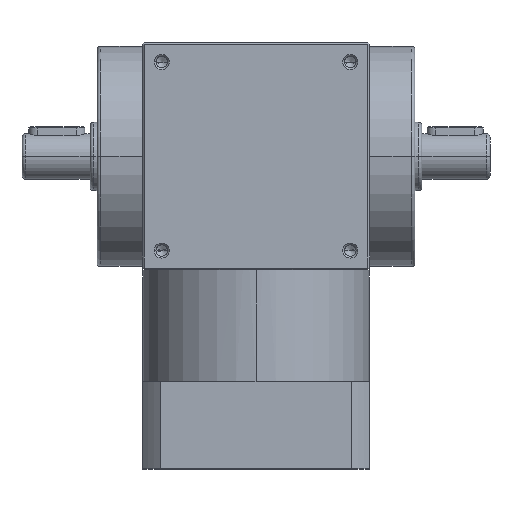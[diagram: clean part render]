
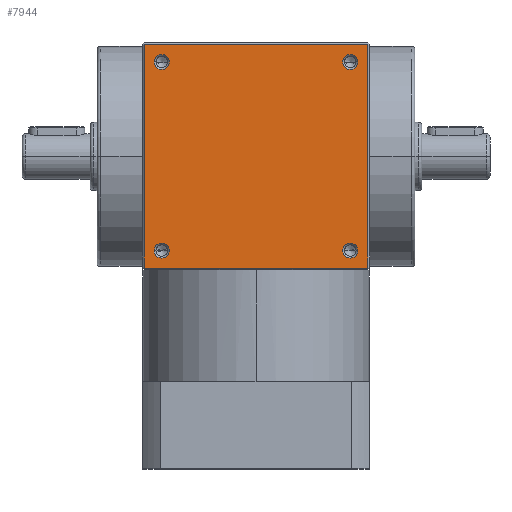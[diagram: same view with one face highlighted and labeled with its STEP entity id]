
A CAD part, top view. The second image highlights one B-rep face of the part: STEP entity #7944.
In plain terms, the highlighted planar face has unit normal (0, 0, 1).
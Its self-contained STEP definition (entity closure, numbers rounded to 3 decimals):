
#6 = ORIENTED_EDGE ( 'NONE', *, *, #1951, .T. ) ;
#156 = CIRCLE ( 'NONE', #3782, 2.15 ) ;
#178 = DIRECTION ( 'NONE',  ( 0., 0., -1. ) ) ;
#218 = CARTESIAN_POINT ( 'NONE',  ( -32., 0., 32.5 ) ) ;
#415 = EDGE_CURVE ( 'NONE', #3198, #7879, #9519, .T. ) ;
#473 = CARTESIAN_POINT ( 'NONE',  ( 0., 0., 32.5 ) ) ;
#605 = CIRCLE ( 'NONE', #6593, 2.15 ) ;
#649 = DIRECTION ( 'NONE',  ( 0., 0., -1. ) ) ;
#782 = VERTEX_POINT ( 'NONE', #1695 ) ;
#820 = VECTOR ( 'NONE', #4402, 1000. ) ;
#1169 = EDGE_CURVE ( 'NONE', #7948, #9587, #5597, .T. ) ;
#1332 = DIRECTION ( 'NONE',  ( -1., 0., 0. ) ) ;
#1337 = CIRCLE ( 'NONE', #7521, 2.15 ) ;
#1436 = EDGE_CURVE ( 'NONE', #8913, #3198, #6053, .T. ) ;
#1455 = EDGE_CURVE ( 'NONE', #8459, #5380, #156, .T. ) ;
#1591 = EDGE_LOOP ( 'NONE', ( #4033, #2217, #4034, #8057 ) ) ;
#1634 = DIRECTION ( 'NONE',  ( 0., 0., -1. ) ) ;
#1662 = DIRECTION ( 'NONE',  ( -1., 0., 0. ) ) ;
#1674 = CARTESIAN_POINT ( 'NONE',  ( -29.15, 27., 32.5 ) ) ;
#1695 = CARTESIAN_POINT ( 'NONE',  ( 29.15, -27., 32.5 ) ) ;
#1951 = EDGE_CURVE ( 'NONE', #3301, #782, #9309, .T. ) ;
#2004 = AXIS2_PLACEMENT_3D ( 'NONE', #7458, #9091, #3764 ) ;
#2015 = DIRECTION ( 'NONE',  ( -1., 0., 0. ) ) ;
#2032 = CIRCLE ( 'NONE', #2272, 2.15 ) ;
#2102 = CIRCLE ( 'NONE', #2004, 2.15 ) ;
#2139 = ORIENTED_EDGE ( 'NONE', *, *, #5505, .T. ) ;
#2217 = ORIENTED_EDGE ( 'NONE', *, *, #415, .T. ) ;
#2247 = CARTESIAN_POINT ( 'NONE',  ( 29.15, 27., 32.5 ) ) ;
#2268 = DIRECTION ( 'NONE',  ( 0., 0., -1. ) ) ;
#2272 = AXIS2_PLACEMENT_3D ( 'NONE', #7439, #2268, #2998 ) ;
#2342 = CARTESIAN_POINT ( 'NONE',  ( 0., 32., 32.5 ) ) ;
#2728 = EDGE_CURVE ( 'NONE', #9597, #8913, #2993, .T. ) ;
#2730 = DIRECTION ( 'NONE',  ( -1., 0., 0. ) ) ;
#2776 = ORIENTED_EDGE ( 'NONE', *, *, #1455, .T. ) ;
#2993 = LINE ( 'NONE', #2342, #4388 ) ;
#2998 = DIRECTION ( 'NONE',  ( -1., 0., 0. ) ) ;
#3003 = CARTESIAN_POINT ( 'NONE',  ( 0., -32., 32.5 ) ) ;
#3093 = ORIENTED_EDGE ( 'NONE', *, *, #3763, .T. ) ;
#3163 = EDGE_LOOP ( 'NONE', ( #6733, #8200 ) ) ;
#3198 = VERTEX_POINT ( 'NONE', #4485 ) ;
#3223 = EDGE_LOOP ( 'NONE', ( #2776, #7965 ) ) ;
#3301 = VERTEX_POINT ( 'NONE', #4682 ) ;
#3349 = CARTESIAN_POINT ( 'NONE',  ( -24.85, 27., 32.5 ) ) ;
#3361 = CARTESIAN_POINT ( 'NONE',  ( -29.15, -27., 32.5 ) ) ;
#3485 = CARTESIAN_POINT ( 'NONE',  ( -27., -27., 32.5 ) ) ;
#3562 = LINE ( 'NONE', #8984, #8522 ) ;
#3763 = EDGE_CURVE ( 'NONE', #782, #3301, #3909, .T. ) ;
#3764 = DIRECTION ( 'NONE',  ( -1., 0., 0. ) ) ;
#3782 = AXIS2_PLACEMENT_3D ( 'NONE', #8640, #6447, #2015 ) ;
#3909 = CIRCLE ( 'NONE', #7796, 2.15 ) ;
#4033 = ORIENTED_EDGE ( 'NONE', *, *, #1436, .T. ) ;
#4034 = ORIENTED_EDGE ( 'NONE', *, *, #8120, .T. ) ;
#4118 = EDGE_LOOP ( 'NONE', ( #7138, #2139 ) ) ;
#4173 = PLANE ( 'NONE',  #4916 ) ;
#4202 = CARTESIAN_POINT ( 'NONE',  ( -27., 27., 32.5 ) ) ;
#4300 = EDGE_CURVE ( 'NONE', #4674, #9190, #2032, .T. ) ;
#4388 = VECTOR ( 'NONE', #5396, 1000. ) ;
#4402 = DIRECTION ( 'NONE',  ( 1., 0., 0. ) ) ;
#4485 = CARTESIAN_POINT ( 'NONE',  ( -32., -32., 32.5 ) ) ;
#4488 = FACE_BOUND ( 'NONE', #4118, .T. ) ;
#4674 = VERTEX_POINT ( 'NONE', #3349 ) ;
#4682 = CARTESIAN_POINT ( 'NONE',  ( 24.85, -27., 32.5 ) ) ;
#4780 = DIRECTION ( 'NONE',  ( 0., 0., -1. ) ) ;
#4916 = AXIS2_PLACEMENT_3D ( 'NONE', #473, #7939, #1332 ) ;
#4944 = FACE_BOUND ( 'NONE', #3223, .T. ) ;
#5218 = CARTESIAN_POINT ( 'NONE',  ( 32., 32., 32.5 ) ) ;
#5229 = DIRECTION ( 'NONE',  ( 0., 1., 0. ) ) ;
#5380 = VERTEX_POINT ( 'NONE', #3361 ) ;
#5396 = DIRECTION ( 'NONE',  ( -1., 0., 0. ) ) ;
#5505 = EDGE_CURVE ( 'NONE', #9190, #4674, #1337, .T. ) ;
#5597 = CIRCLE ( 'NONE', #7869, 2.15 ) ;
#5710 = VECTOR ( 'NONE', #8279, 1000. ) ;
#5839 = DIRECTION ( 'NONE',  ( -1., 0., 0. ) ) ;
#5885 = FACE_BOUND ( 'NONE', #3163, .T. ) ;
#6053 = LINE ( 'NONE', #218, #5710 ) ;
#6288 = DIRECTION ( 'NONE',  ( -1., 0., 0. ) ) ;
#6447 = DIRECTION ( 'NONE',  ( 0., 0., -1. ) ) ;
#6593 = AXIS2_PLACEMENT_3D ( 'NONE', #3485, #1634, #8316 ) ;
#6733 = ORIENTED_EDGE ( 'NONE', *, *, #6737, .T. ) ;
#6737 = EDGE_CURVE ( 'NONE', #9587, #7948, #2102, .T. ) ;
#7131 = EDGE_CURVE ( 'NONE', #5380, #8459, #605, .T. ) ;
#7138 = ORIENTED_EDGE ( 'NONE', *, *, #4300, .T. ) ;
#7184 = DIRECTION ( 'NONE',  ( 0., 0., -1. ) ) ;
#7262 = CARTESIAN_POINT ( 'NONE',  ( 27., 27., 32.5 ) ) ;
#7439 = CARTESIAN_POINT ( 'NONE',  ( -27., 27., 32.5 ) ) ;
#7458 = CARTESIAN_POINT ( 'NONE',  ( 27., 27., 32.5 ) ) ;
#7521 = AXIS2_PLACEMENT_3D ( 'NONE', #4202, #7184, #2730 ) ;
#7723 = CARTESIAN_POINT ( 'NONE',  ( 32., -32., 32.5 ) ) ;
#7796 = AXIS2_PLACEMENT_3D ( 'NONE', #8446, #4780, #6288 ) ;
#7853 = EDGE_LOOP ( 'NONE', ( #3093, #6 ) ) ;
#7869 = AXIS2_PLACEMENT_3D ( 'NONE', #7262, #649, #5839 ) ;
#7879 = VERTEX_POINT ( 'NONE', #7723 ) ;
#7939 = DIRECTION ( 'NONE',  ( 0., 0., -1. ) ) ;
#7944 = ADVANCED_FACE ( 'NONE', ( #8406, #4944, #5885, #4488, #8309 ), #4173, .F. ) ;
#7948 = VERTEX_POINT ( 'NONE', #9439 ) ;
#7965 = ORIENTED_EDGE ( 'NONE', *, *, #7131, .T. ) ;
#7967 = CARTESIAN_POINT ( 'NONE',  ( -32., 32., 32.5 ) ) ;
#8057 = ORIENTED_EDGE ( 'NONE', *, *, #2728, .T. ) ;
#8114 = CARTESIAN_POINT ( 'NONE',  ( -24.85, -27., 32.5 ) ) ;
#8120 = EDGE_CURVE ( 'NONE', #7879, #9597, #3562, .T. ) ;
#8200 = ORIENTED_EDGE ( 'NONE', *, *, #1169, .T. ) ;
#8279 = DIRECTION ( 'NONE',  ( 0., -1., 0. ) ) ;
#8309 = FACE_OUTER_BOUND ( 'NONE', #1591, .T. ) ;
#8316 = DIRECTION ( 'NONE',  ( -1., 0., 0. ) ) ;
#8401 = AXIS2_PLACEMENT_3D ( 'NONE', #9043, #178, #1662 ) ;
#8406 = FACE_BOUND ( 'NONE', #7853, .T. ) ;
#8446 = CARTESIAN_POINT ( 'NONE',  ( 27., -27., 32.5 ) ) ;
#8459 = VERTEX_POINT ( 'NONE', #8114 ) ;
#8522 = VECTOR ( 'NONE', #5229, 1000. ) ;
#8640 = CARTESIAN_POINT ( 'NONE',  ( -27., -27., 32.5 ) ) ;
#8913 = VERTEX_POINT ( 'NONE', #7967 ) ;
#8984 = CARTESIAN_POINT ( 'NONE',  ( 32., 0., 32.5 ) ) ;
#9043 = CARTESIAN_POINT ( 'NONE',  ( 27., -27., 32.5 ) ) ;
#9091 = DIRECTION ( 'NONE',  ( 0., 0., -1. ) ) ;
#9190 = VERTEX_POINT ( 'NONE', #1674 ) ;
#9309 = CIRCLE ( 'NONE', #8401, 2.15 ) ;
#9439 = CARTESIAN_POINT ( 'NONE',  ( 24.85, 27., 32.5 ) ) ;
#9519 = LINE ( 'NONE', #3003, #820 ) ;
#9587 = VERTEX_POINT ( 'NONE', #2247 ) ;
#9597 = VERTEX_POINT ( 'NONE', #5218 ) ;
